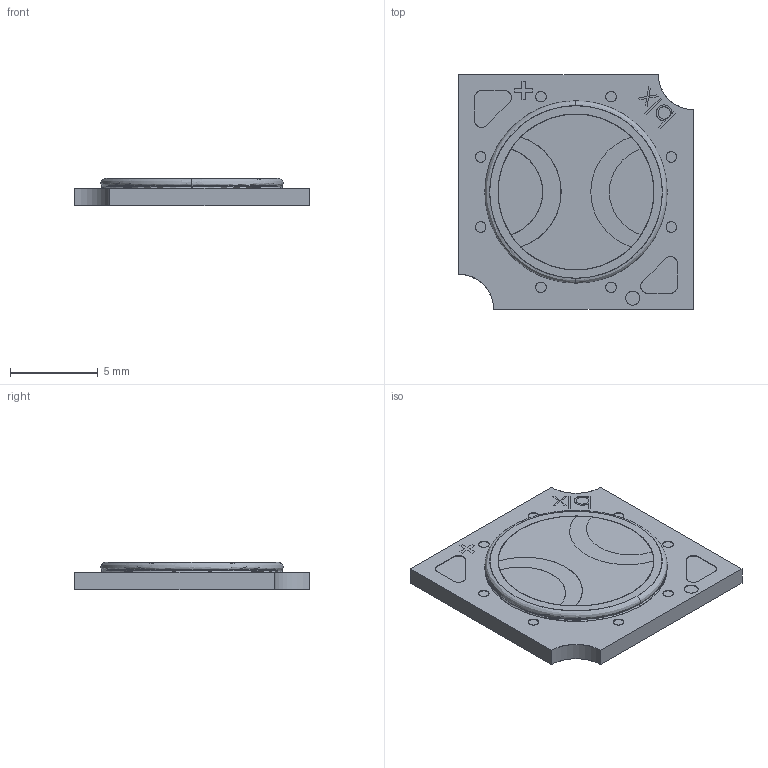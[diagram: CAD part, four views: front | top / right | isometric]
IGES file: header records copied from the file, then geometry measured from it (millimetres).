
Start section: SolidWorks IGES file using analytic representation for surfaces
Global section: file name: D:\Users\5160206\Desktop\3D document\Vesta\NTW&DW Series\DW GEN3\DW9 GEN3\DW9 GEN3 Assembly.IGS; native system: SolidWorks 2018; preprocessor: SolidWorks 2018; author: 5160206; date: 250225.133530; units: millimetre
Bounding box: 13.4 x 13.4 x 1.55 mm (x, y, z)
Surface area: 660.6 mm2 (no closed solid volume)
Topology: 0 solids, 0 shells, 141 faces, 1536 edges, 1536 vertices
Faces by surface type: bspline 89, revolution 52
